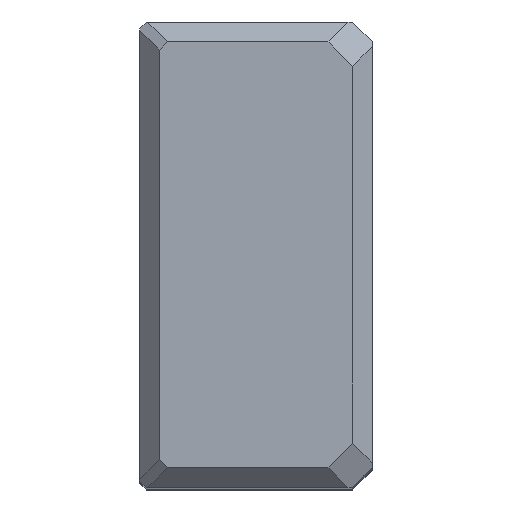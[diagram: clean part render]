
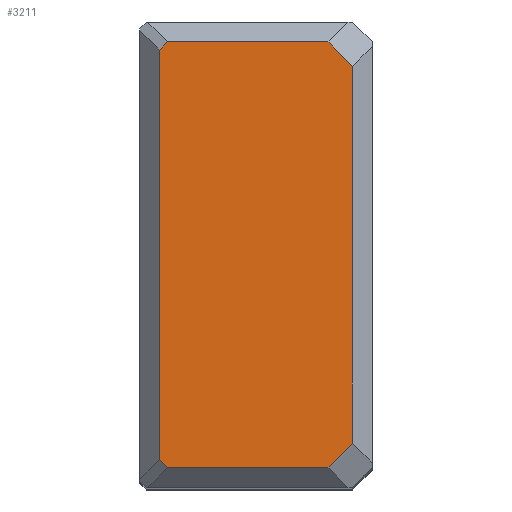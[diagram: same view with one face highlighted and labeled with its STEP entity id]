
A CAD part, top view. The second image highlights one B-rep face of the part: STEP entity #3211.
In plain terms, the highlighted planar face has unit normal (0, 0, 1).
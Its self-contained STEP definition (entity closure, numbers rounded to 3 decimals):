
#95=VERTEX_POINT(' ',#96);
#96=CARTESIAN_POINT('',(-3.,-28.326,0.));
#97=VERTEX_POINT(' ',#98);
#98=CARTESIAN_POINT('',(-6.674,-32.,0.));
#127=VERTEX_POINT(' ',#128);
#128=CARTESIAN_POINT('',(-3.,28.326,0.));
#135=VERTEX_POINT(' ',#136);
#136=CARTESIAN_POINT('',(-6.674,32.,0.));
#165=VERTEX_POINT(' ',#166);
#166=CARTESIAN_POINT('',(-30.775,-32.,0.));
#173=VERTEX_POINT(' ',#174);
#174=CARTESIAN_POINT('',(-32.,-30.775,0.));
#191=VERTEX_POINT(' ',#192);
#192=CARTESIAN_POINT('',(-32.,30.775,0.));
#195=VERTEX_POINT(' ',#196);
#196=CARTESIAN_POINT('',(-30.775,32.,0.));
#616=LINE('',#617,#618);
#617=CARTESIAN_POINT('',(12.663,-12.663,0.));
#618=VECTOR('',#619,1.);
#619=DIRECTION('',(0.707,0.707,0.));
#620=EDGE_CURVE(' ',#95,#97,#616,.F.);
#746=LINE('',#747,#748);
#747=CARTESIAN_POINT('',(-3.,-35.12,0.));
#748=VECTOR('',#749,1.);
#749=DIRECTION('',(0.,1.,0.));
#750=EDGE_CURVE(' ',#95,#127,#746,.T.);
#771=LINE('',#772,#773);
#772=CARTESIAN_POINT('',(12.663,12.663,0.));
#773=VECTOR('',#774,1.);
#774=DIRECTION('',(-0.707,0.707,0.));
#775=EDGE_CURVE(' ',#135,#127,#771,.F.);
#936=LINE('',#937,#938);
#937=CARTESIAN_POINT('',(-35.12,-32.,0.));
#938=VECTOR('',#939,1.);
#939=DIRECTION('',(1.,0.,0.));
#940=EDGE_CURVE(' ',#165,#97,#936,.T.);
#951=LINE('',#952,#953);
#952=CARTESIAN_POINT('',(-31.388,-31.388,0.));
#953=VECTOR('',#954,1.);
#954=DIRECTION('',(0.707,-0.707,0.));
#955=EDGE_CURVE(' ',#165,#173,#951,.F.);
#1043=LINE('',#1044,#1045);
#1044=CARTESIAN_POINT('',(-32.,-35.12,0.));
#1045=VECTOR('',#1046,1.);
#1046=DIRECTION('',(0.,1.,0.));
#1047=EDGE_CURVE(' ',#173,#191,#1043,.T.);
#1048=LINE('',#1049,#1050);
#1049=CARTESIAN_POINT('',(-31.388,31.388,0.));
#1050=VECTOR('',#1051,1.);
#1051=DIRECTION('',(-0.707,-0.707,0.));
#1052=EDGE_CURVE(' ',#191,#195,#1048,.F.);
#1053=LINE('',#1054,#1055);
#1054=CARTESIAN_POINT('',(-35.12,32.,0.));
#1055=VECTOR('',#1056,1.);
#1056=DIRECTION('',(1.,0.,0.));
#1057=EDGE_CURVE(' ',#135,#195,#1053,.F.);
#3196=ORIENTED_EDGE('',*,*,#1052,.F.);
#3197=ORIENTED_EDGE('',*,*,#1047,.F.);
#3198=ORIENTED_EDGE('',*,*,#955,.F.);
#3199=ORIENTED_EDGE('',*,*,#940,.T.);
#3200=ORIENTED_EDGE('',*,*,#620,.F.);
#3201=ORIENTED_EDGE('',*,*,#750,.T.);
#3202=ORIENTED_EDGE('',*,*,#775,.F.);
#3203=ORIENTED_EDGE('',*,*,#1057,.T.);
#3204=EDGE_LOOP('',(#3196,#3197,#3198,#3199,#3200,#3201,#3202,#3203));
#3205=FACE_OUTER_BOUND('',#3204,.T.);
#3206=PLANE('',#3207);
#3207=AXIS2_PLACEMENT_3D('',#3208,#3209,#3210);
#3208=CARTESIAN_POINT('',(-32.,0.,0.));
#3209=DIRECTION('',(0.,0.,1.));
#3210=DIRECTION('',(1.,0.,0.));
#3211=ADVANCED_FACE('',(#3205),#3206,.T.);
